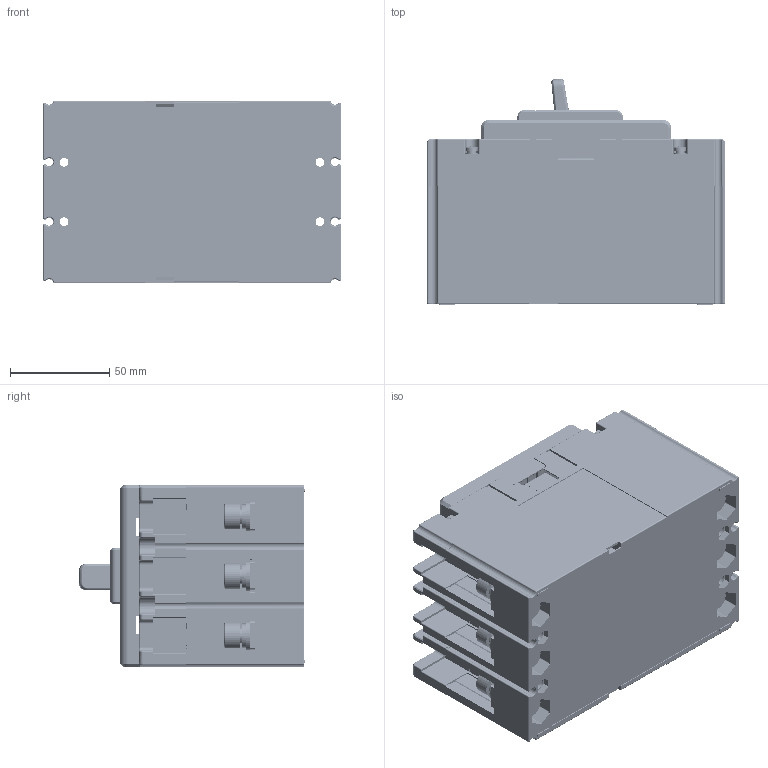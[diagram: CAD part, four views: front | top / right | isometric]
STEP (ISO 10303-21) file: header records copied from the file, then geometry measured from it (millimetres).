
FILE_DESCRIPTION((''),'2;1');
FILE_NAME('CDM3V-125BF_3300_125A_ASM','2021-06-10T',('guobiao.he'),(''),'PRO/ENGINEER BY PARAMETRIC TECHNOLOGY CORPORATION, 2015440','PRO/ENGINEER BY PARAMETRIC TECHNOLOGY CORPORATION, 2015440','');
FILE_SCHEMA(('CONFIG_CONTROL_DESIGN'));
Products named in the file (54): JZ8024044900_53_1; GB_T809_M3_5X12_4_1; 5024044900_ASM_141_ASM_1_ASM; 8585065400_6_1; 5551073200_ASM_6_ASM_1_ASM; 8775008900_13_1; MANIFOLD_SOLID_BREP_81877_1; 8505030200_13_ASM_1_ASM; 5551102700_ASM_15_ASM_1_ASM; 8964011500_6_1; 5551102800_ASM_13_ASM_1_ASM; 5551102900_ASM_17_ASM_1_ASM; 7010100312J_GB_T823_M3X20_7_1; 7090300201_GB_T93_3_10_1; GB_T97_4_3_3_1; 5850006000_ASM_2_ASM_1_ASM; GB_T823-M3_5X10_7_1; 8950019500_5_1; 5850004500_ASM_1_ASM_1_ASM; 5551108700_ASM_7_ASM_1; GB_T818-M3X8_3_1; 8950022000_1_1; 5850005300_ASM_2_ASM_1_ASM; 8585065500_6_1; 5420038100_ASM_5_ASM_1_ASM; 5420038200_ASM_3_ASM_1_ASM; 5615027400_ASM_6_ASM_1_ASM; 7010100503_GB_T9074_4_M4X8_3_1; GB_T823-M3_5X30_7_1; 5850007200_ASM_4_ASM_1_ASM; 8231017100_3_1; 5295009100_ASM_2_ASM_1_ASM; 8742105400_13_1; 8742105300_1_1; 8253076900_21_1; 5253029000_ASM_21_ASM_1_ASM; 8156031900_1_1; 8742123300_16_1; 8750031500_1_1; 8315096100_114_1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
Assembly tree (105 placements, depth 9):
  CDM3V-125BF_3300_125A_ASM
    2253030700_ASM_ASM_1_ASM
      2253030700_ASM_57_ASM_1_ASM
        5295009100_ASM_2_ASM_1_ASM
          5024044900_ASM_141_ASM_1_ASM
            JZ8024044900_53_1
            GB_T809_M3_5X12_4_1  x6
          5551102900_ASM_17_ASM_1_ASM  x3
            5551102800_ASM_13_ASM_1_ASM
              5551102700_ASM_15_ASM_1_ASM
                8585065400_6_1
                5551073200_ASM_6_ASM_1_ASM
                8775008900_13_1  x2
                8505030200_13_ASM_1_ASM  x2
                  MANIFOLD_SOLID_BREP_81877_1
              8964011500_6_1  x2
          5850006000_ASM_2_ASM_1_ASM  x3
            7010100312J_GB_T823_M3X20_7_1
            7090300201_GB_T93_3_10_1
            GB_T97_4_3_3_1
          5850004500_ASM_1_ASM_1_ASM  x6
            GB_T823-M3_5X10_7_1
            7090300201_GB_T93_3_10_1
            8950019500_5_1
          5551108700_ASM_7_ASM_1
          5850005300_ASM_2_ASM_1_ASM  x3
            GB_T818-M3X8_3_1
            7090300201_GB_T93_3_10_1
            8950022000_1_1
          5615027400_ASM_6_ASM_1_ASM  x3
            5420038200_ASM_3_ASM_1_ASM
              5420038100_ASM_5_ASM_1_ASM
                8585065500_6_1
          7010100503_GB_T9074_4_M4X8_3_1  x3
          5850007200_ASM_4_ASM_1_ASM  x4
            GB_T823-M3_5X30_7_1
            7090300201_GB_T93_3_10_1
            8950019500_5_1
          8231017100_3_1
        8742105400_13_1  x3
        8742105300_1_1  x3
        5253029000_ASM_21_ASM_1_ASM
          8253076900_21_1
        8156031900_1_1  x2
        8742123300_16_1  x2
        8750031500_1_1  x3
        5315052100_ASM_26_ASM_1_ASM
          5315051000_ASM_19_ASM_1_ASM
            8315096100_114_1
            8282073000_AF0_2_1
            8253076800_16_1
          8315096300_52_1
          7020100411_GB13806_2_ST2_9X8_A_  x4
        5850008100_ASM_5_ASM_1_ASM  x6
          7010600401L_GB_T70_1_M8X16_1_1
          7090370701K_GB_T93_8_10_1
          GB_T97_4_8_3_1
        5850007200_ASM_4_ASM_1_ASM  x6
          GB_T823-M3_5X30_7_1
          7090300201_GB_T93_3_10_1
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Bounding box: 150 x 114.3 x 92 mm (x, y, z)
Volume: 451967.2 mm3; surface area: 343479.9 mm2
Topology: 142 solids, 142 shells, 8515 faces, 22704 edges, 14526 vertices
Faces by surface type: plane 4832, cylinder 2534, torus 303, extrusion 264, cone 220, sphere 206, bspline 156
Entity records: 226420 total; most frequent: CARTESIAN_POINT 54379, ORIENTED_EDGE 36328, DIRECTION 35000, EDGE_CURVE 18164, VECTOR 12460, LINE 12196, VERTEX_POINT 11722, AXIS2_PLACEMENT_3D 11270
